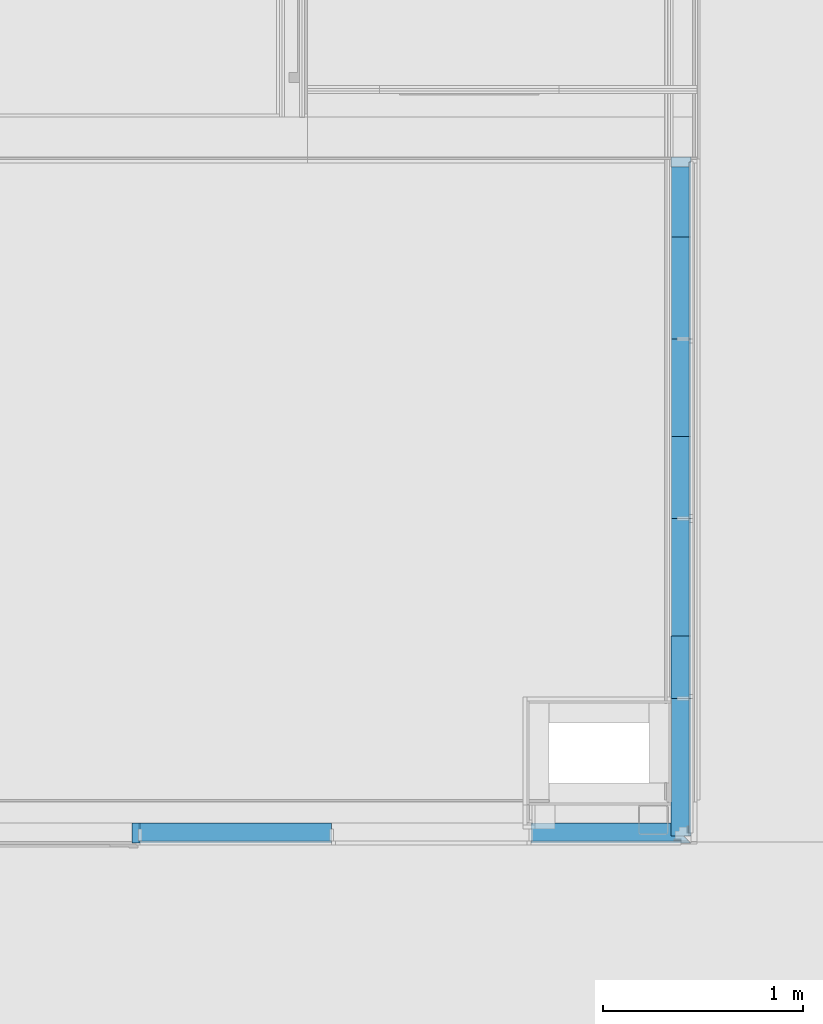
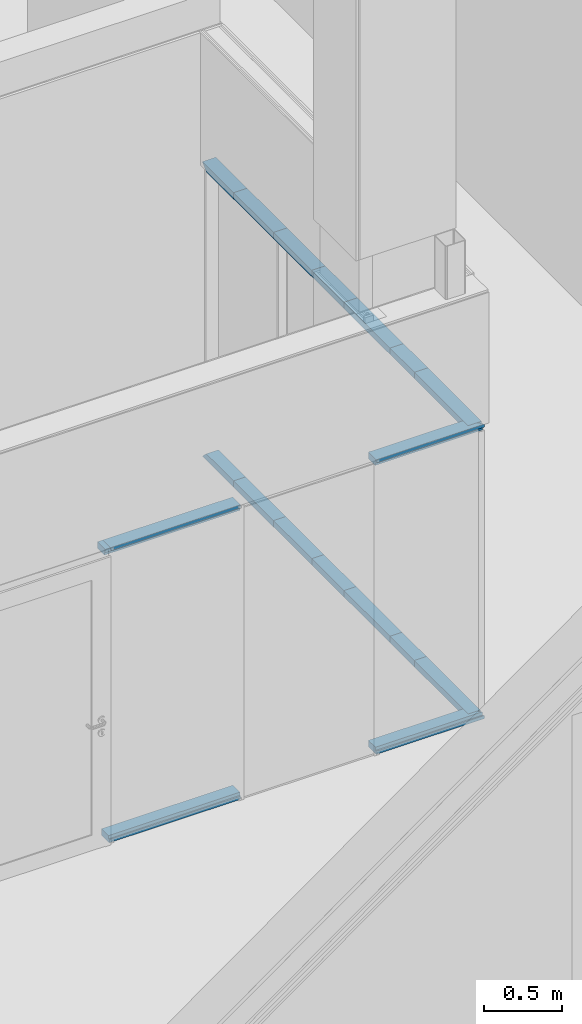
# One storey, part 15 of 139: 19 members, 1 element without a shape of its own.
"""IFC2X3 building model written with IfcOpenShell, lengths in millimetres."""

from ifc_helpers import new_model, entity, si_unit, converted_unit, derived_unit, money_unit, direction, frame, origin_with_axes, place, context, subcontext, project, spatial, faceted_brep, source, transform, mapped, material, type_object, element, aggregate, save


model = new_model("IFC2X3")

# Units and contexts
model_context = context("Model", 3, precision=0.01, world=origin_with_axes(), true_north=direction((0.0, 1.0)))
body_context = subcontext(model_context, "Body", "Model", "MODEL_VIEW")
ifc_project = project(units=[si_unit("LENGTHUNIT", "METRE", prefix="MILLI"), si_unit("AREAUNIT", "SQUARE_METRE"), si_unit("VOLUMEUNIT", "CUBIC_METRE"), converted_unit("PLANEANGLEUNIT", "DEGREE", entity("IfcPlaneAngleMeasure", 0.0174532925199), si_unit("PLANEANGLEUNIT", "RADIAN"), dimensions=[0, 0, 0, 0, 0, 0, 0]), money_unit("EUR"), converted_unit("TIMEUNIT", "Year", entity("IfcTimeMeasure", 31556926.0), si_unit("TIMEUNIT", "SECOND"), dimensions=[0, 0, 1, 0, 0, 0, 0]), si_unit("MASSUNIT", "GRAM", prefix="KILO"), si_unit("THERMODYNAMICTEMPERATUREUNIT", "DEGREE_CELSIUS"), si_unit("LUMINOUSINTENSITYUNIT", "LUMEN"), si_unit("ENERGYUNIT", "JOULE", prefix="MEGA"), derived_unit("THERMALCONDUCTANCEUNIT", [(si_unit("POWERUNIT", "WATT"), 1), (si_unit("LENGTHUNIT", "METRE"), -1), (si_unit("THERMODYNAMICTEMPERATUREUNIT", "KELVIN"), -1)]), derived_unit("SPECIFICHEATCAPACITYUNIT", [(si_unit("ENERGYUNIT", "JOULE"), 1), (si_unit("MASSUNIT", "GRAM", prefix="KILO"), -1), (si_unit("THERMODYNAMICTEMPERATUREUNIT", "KELVIN"), -1)]), derived_unit("MASSDENSITYUNIT", [(si_unit("MASSUNIT", "GRAM", prefix="KILO"), 1), (si_unit("VOLUMEUNIT", "CUBIC_METRE"), -1)])], contexts=[model_context])

# Site, building, storey
site_placement = place(None, origin_with_axes())
site = spatial("IfcSite", under=ifc_project, at=site_placement, Name="Kolde pst 67a", CompositionType="ELEMENT")
building_placement = place(site_placement, origin_with_axes())
building = spatial("IfcBuilding", under=site, at=building_placement, Name="Riigigümnaasium", CompositionType="ELEMENT")
storey_placement = place(building_placement, frame((0.0, 0.0, 4600.0), z_axis=(0.0, 0.0, 1.0), x_axis=(1.0, 0.0, 0.0)))
storey = spatial("IfcBuildingStorey", under=building, at=storey_placement, Name="2. korrus", CompositionType="ELEMENT", Elevation=4600.0)

# Curtain wall, members
curtain_wall_type = type_object("IfcCurtainWallType", Name="Curtain Wall Type", PredefinedType="NOTDEFINED")
curtain_wall_placement = place(storey_placement, frame((71469.9681221, 10694.9619432, -0.000132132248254), z_axis=(0.0, 0.0, 1.0), x_axis=(1.0, 0.0, 0.0)))
curtain_wall = element("IfcCurtainWall", 1, at=curtain_wall_placement, inside=storey, type_object=curtain_wall_type, Name="KLAASSEIN")
ifc_material = material(Name="_GENEERILINE MATERJAL")
member_type = type_object("IfcMemberType", Name="Boundary Frame 50 x 100", PredefinedType="MEMBER")
shared_shape_1 = source(origin_with_axes(), body_context, "Body", "Brep", [
    faceted_brep([(50.0, -10.0, -10.0), (50.0, -10.0, 960.062333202), (50.0, -100.0, 960.062333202), (50.0, -100.0, -10.0), (25.0, -10.0, 960.062333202), (25.0, -10.0, -10.0), (25.0, 0.0, 960.062333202), (0.0, 0.0, 960.062333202), (0.0, -100.0, 960.062333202), (0.0, -100.0, -10.0), (0.0, 0.0, -10.0), (25.0, 0.0, -10.0)], [[[0, 1, 2, 3]], [[4, 1, 0, 5]], [[4, 6, 7, 8, 2, 1]], [[3, 2, 8, 9]], [[5, 0, 3, 9, 10, 11]], [[11, 6, 4, 5]], [[6, 11, 10, 7]], [[9, 8, 7, 10]]]),
])
member_1_placement = place(curtain_wall_placement, frame((-480.031166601, -8.05597366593e-07, 2.48529836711e-05), z_axis=(1.0, 1.67821887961e-09, 0.0), x_axis=(0.0, 0.0, 1.0)))
member_1 = element("IfcMember", 2, at=member_1_placement, type_object=member_type, material=ifc_material, Name="RF RAAM SERV-179", ObjectType="MEMBER", context=body_context, shape_type="MappedRepresentation", body=[
    mapped(shared_shape_1, transform((0.0, 0.0, 0.0))),
])
shared_shape_2 = source(origin_with_axes(), body_context, "Body", "Brep", [
    faceted_brep([(-50.0, -10.0, 0.0), (-50.0, -100.0, 0.0), (-50.0, -100.0, 960.062333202), (-50.0, -10.0, 960.062333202), (-25.0, -10.0, 0.0), (-25.0, 0.0, 0.0), (0.0, 0.0, 0.0), (0.0, -100.0, 0.0), (0.0, -100.0, 960.062333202), (-25.0, -10.0, 960.062333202), (0.0, 0.0, 960.062333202), (-25.0, 0.0, 960.062333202)], [[[0, 1, 2, 3]], [[4, 5, 6, 7, 1, 0]], [[1, 7, 8, 2]], [[9, 3, 2, 8, 10, 11]], [[9, 4, 0, 3]], [[5, 4, 9, 11]], [[11, 10, 6, 5]], [[7, 6, 10, 8]]]),
])
member_2_placement = place(curtain_wall_placement, frame((-480.031166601, -8.05597366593e-07, 2300.00018238), z_axis=(1.0, 1.67821887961e-09, 0.0), x_axis=(0.0, 0.0, 1.0)))
member_2 = element("IfcMember", 3, at=member_2_placement, type_object=member_type, material=ifc_material, Name="RF RAAM SERV-185", ObjectType="MEMBER", context=body_context, shape_type="MappedRepresentation", body=[
    mapped(shared_shape_2, transform((0.0, 0.0, 0.0))),
])
shared_shape_3 = source(origin_with_axes(), body_context, "Body", "Brep", [
    faceted_brep([(50.0, -10.0, 0.0), (50.0, -10.0, 311.656305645), (50.0, -100.0, 311.656305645), (50.0, -100.0, 0.0), (25.0, -10.0, 311.656305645), (25.0, -10.0, 0.0), (25.0, 0.0, 311.656305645), (0.0, 0.0, 311.656305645), (0.0, -100.0, 311.656305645), (0.0, -100.0, 0.0), (0.0, 0.0, 0.0), (25.0, 0.0, 0.0)], [[[0, 1, 2, 3]], [[4, 1, 0, 5]], [[4, 6, 7, 8, 2, 1]], [[3, 2, 8, 9]], [[5, 0, 3, 9, 10, 11]], [[11, 6, 4, 5]], [[6, 11, 10, 7]], [[9, 8, 7, 10]]]),
])
member_3_placement = place(curtain_wall_placement, frame((2279.75189028, 723.343698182, 0.0), z_axis=(0.0, 1.0, 0.0), x_axis=(0.0, 0.0, 1.0)))
member_3 = element("IfcMember", 4, at=member_3_placement, type_object=member_type, material=ifc_material, Name="RF RAAM SERV-189", ObjectType="MEMBER", context=body_context, shape_type="MappedRepresentation", body=[
    mapped(shared_shape_3, transform((0.0, 0.0, 0.0))),
])
shared_shape_4 = source(origin_with_axes(), body_context, "Body", "Brep", [
    faceted_brep([(50.0, -10.0, 0.0), (50.0, -10.0, 411.144535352), (50.0, -100.0, 411.144535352), (50.0, -100.0, 0.0), (25.0, -10.0, 411.144535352), (25.0, -10.0, 0.0), (25.0, 0.0, 411.144535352), (0.0, 0.0, 411.144535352), (0.0, -100.0, 411.144535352), (0.0, -100.0, 0.0), (0.0, 0.0, 0.0), (25.0, 0.0, 0.0)], [[[0, 1, 2, 3]], [[4, 1, 0, 5]], [[4, 6, 7, 8, 2, 1]], [[3, 2, 8, 9]], [[5, 0, 3, 9, 10, 11]], [[11, 6, 4, 5]], [[6, 11, 10, 7]], [[9, 8, 7, 10]]]),
])
member_4_placement = place(curtain_wall_placement, frame((2279.75189028, 1623.85546847, 0.0), z_axis=(0.0, 1.0, 0.0), x_axis=(0.0, 0.0, 1.0)))
member_4 = element("IfcMember", 5, at=member_4_placement, type_object=member_type, material=ifc_material, Name="RF RAAM SERV-190", ObjectType="MEMBER", context=body_context, shape_type="MappedRepresentation", body=[
    mapped(shared_shape_4, transform((0.0, 0.0, 0.0))),
])
shared_shape_5 = source(origin_with_axes(), body_context, "Body", "Brep", [
    faceted_brep([(-50.0, -10.0, 0.0), (-50.0, -100.0, 0.0), (-50.0, -100.0, 311.656305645), (-50.0, -10.0, 311.656305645), (-25.0, -10.0, 0.0), (-25.0, 0.0, 0.0), (0.0, 0.0, 0.0), (0.0, -100.0, 0.0), (0.0, -100.0, 311.656305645), (-25.0, -10.0, 311.656305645), (0.0, 0.0, 311.656305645), (-25.0, 0.0, 311.656305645)], [[[0, 1, 2, 3]], [[4, 5, 6, 7, 1, 0]], [[1, 7, 8, 2]], [[9, 3, 2, 8, 10, 11]], [[9, 4, 0, 3]], [[5, 4, 9, 11]], [[11, 10, 6, 5]], [[7, 6, 10, 8]]]),
])
member_5_placement = place(curtain_wall_placement, frame((2279.75189028, 723.343698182, 2300.00014524), z_axis=(0.0, 1.0, 0.0), x_axis=(0.0, 0.0, 1.0)))
member_5 = element("IfcMember", 6, at=member_5_placement, type_object=member_type, material=ifc_material, Name="RF RAAM SERV-197", ObjectType="MEMBER", context=body_context, shape_type="MappedRepresentation", body=[
    mapped(shared_shape_5, transform((0.0, 0.0, 0.0))),
])
shared_shape_6 = source(origin_with_axes(), body_context, "Body", "Brep", [
    faceted_brep([(-50.0, -10.0, 0.0), (-50.0, -100.0, 0.0), (-50.0, -100.0, 411.144535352), (-50.0, -10.0, 411.144535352), (-25.0, -10.0, 0.0), (-25.0, 0.0, 0.0), (0.0, 0.0, 0.0), (0.0, -100.0, 0.0), (0.0, -100.0, 411.144535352), (-25.0, -10.0, 411.144535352), (0.0, 0.0, 411.144535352), (-25.0, 0.0, 411.144535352)], [[[0, 1, 2, 3]], [[4, 5, 6, 7, 1, 0]], [[1, 7, 8, 2]], [[9, 3, 2, 8, 10, 11]], [[9, 4, 0, 3]], [[5, 4, 9, 11]], [[11, 10, 6, 5]], [[7, 6, 10, 8]]]),
])
member_6_placement = place(curtain_wall_placement, frame((2279.75189028, 1623.85546847, 2300.00014524), z_axis=(0.0, 1.0, 0.0), x_axis=(0.0, 0.0, 1.0)))
member_6 = element("IfcMember", 7, at=member_6_placement, type_object=member_type, material=ifc_material, Name="RF RAAM SERV-196", ObjectType="MEMBER", context=body_context, shape_type="MappedRepresentation", body=[
    mapped(shared_shape_6, transform((0.0, 0.0, 0.0))),
])
shared_shape_7 = source(origin_with_axes(), body_context, "Body", "Brep", [
    faceted_brep([(-50.0, -10.0, 0.0), (-50.0, -100.0, 0.0), (-50.0, -100.0, 699.720723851), (-50.0, -10.0, 789.7207237), (-25.0, -10.0, 0.0), (-25.0, 0.0, 0.0), (0.0, 0.0, 0.0), (0.0, -100.0, 0.0), (0.0, -100.0, 699.720723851), (-25.0, -10.0, 789.7207237), (0.0, 0.0, 799.720723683), (-25.0, 0.0, 799.720723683)], [[[0, 1, 2, 3]], [[4, 5, 6, 7, 1, 0]], [[1, 7, 8, 2]], [[9, 3, 2, 8, 10, 11]], [[9, 4, 0, 3]], [[5, 4, 9, 11]], [[11, 10, 6, 5]], [[7, 6, 10, 8]]]),
])
member_7_placement = place(curtain_wall_placement, frame((1480.0311666, 2.48381759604e-06, 2300.00018238), z_axis=(1.0, 1.67821944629e-09, 0.0), x_axis=(0.0, 0.0, 1.0)))
member_7 = element("IfcMember", 8, at=member_7_placement, type_object=member_type, material=ifc_material, Name="RF RAAM SERV-183", ObjectType="MEMBER", context=body_context, shape_type="MappedRepresentation", body=[
    mapped(shared_shape_7, transform((0.0, 0.0, 0.0))),
])
shared_shape_8 = source(origin_with_axes(), body_context, "Body", "Brep", [
    faceted_brep([(50.0, -10.0, 0.0), (50.0, -10.0, 789.7207237), (50.0, -100.0, 699.720723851), (50.0, -100.0, 0.0), (25.0, -10.0, 789.7207237), (25.0, -10.0, 0.0), (25.0, 0.0, 799.720723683), (0.0, 0.0, 799.720723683), (0.0, -100.0, 699.720723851), (0.0, -100.0, 0.0), (0.0, 0.0, 0.0), (25.0, 0.0, 0.0)], [[[0, 1, 2, 3]], [[4, 1, 0, 5]], [[4, 6, 7, 8, 2, 1]], [[3, 2, 8, 9]], [[5, 0, 3, 9, 10, 11]], [[11, 6, 4, 5]], [[6, 11, 10, 7]], [[9, 8, 7, 10]]]),
])
member_8_placement = place(curtain_wall_placement, frame((1480.0311666, 2.48381759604e-06, 2.48529836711e-05), z_axis=(1.0, 1.67821944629e-09, 0.0), x_axis=(0.0, 0.0, 1.0)))
member_8 = element("IfcMember", 9, at=member_8_placement, type_object=member_type, material=ifc_material, Name="RF RAAM SERV-181", ObjectType="MEMBER", context=body_context, shape_type="MappedRepresentation", body=[
    mapped(shared_shape_8, transform((0.0, 0.0, 0.0))),
])
shared_shape_9 = source(origin_with_axes(), body_context, "Body", "Brep", [
    faceted_brep([(-50.0, -10.0, 0.0), (-50.0, -100.0, 0.0), (-50.0, -100.0, 511.1445251), (-50.0, -10.0, 511.1445251), (-25.0, -10.0, 0.0), (-25.0, 0.0, 0.0), (0.0, 0.0, 0.0), (0.0, -100.0, 0.0), (0.0, -100.0, 511.1445251), (-25.0, -10.0, 511.1445251), (0.0, 0.0, 511.1445251), (-25.0, 0.0, 511.1445251)], [[[0, 1, 2, 3]], [[4, 5, 6, 7, 1, 0]], [[1, 7, 8, 2]], [[9, 3, 2, 8, 10, 11]], [[9, 4, 0, 3]], [[5, 4, 9, 11]], [[11, 10, 6, 5]], [[7, 6, 10, 8]]]),
])
member_9_placement = place(curtain_wall_placement, frame((2279.75189028, 2523.85547873, 2300.00014524), z_axis=(0.0, 1.0, 0.0), x_axis=(0.0, 0.0, 1.0)))
member_9 = element("IfcMember", 10, at=member_9_placement, type_object=member_type, material=ifc_material, Name="RF RAAM SERV-195", ObjectType="MEMBER", context=body_context, shape_type="MappedRepresentation", body=[
    mapped(shared_shape_9, transform((0.0, 0.0, 0.0))),
])
shared_shape_10 = source(origin_with_axes(), body_context, "Body", "Brep", [
    faceted_brep([(50.0, -10.0, 0.0), (50.0, -10.0, 511.1445251), (50.0, -100.0, 511.1445251), (50.0, -100.0, 0.0), (25.0, -10.0, 511.1445251), (25.0, -10.0, 0.0), (25.0, 0.0, 511.1445251), (0.0, 0.0, 511.1445251), (0.0, -100.0, 511.1445251), (0.0, -100.0, 0.0), (0.0, 0.0, 0.0), (25.0, 0.0, 0.0)], [[[0, 1, 2, 3]], [[4, 1, 0, 5]], [[4, 6, 7, 8, 2, 1]], [[3, 2, 8, 9]], [[5, 0, 3, 9, 10, 11]], [[11, 6, 4, 5]], [[6, 11, 10, 7]], [[9, 8, 7, 10]]]),
])
member_10_placement = place(curtain_wall_placement, frame((2279.75189028, 2523.85547873, 0.0), z_axis=(0.0, 1.0, 0.0), x_axis=(0.0, 0.0, 1.0)))
member_10 = element("IfcMember", 11, at=member_10_placement, type_object=member_type, material=ifc_material, Name="RF RAAM SERV-191", ObjectType="MEMBER", context=body_context, shape_type="MappedRepresentation", body=[
    mapped(shared_shape_10, transform((0.0, 0.0, 0.0))),
])
shared_shape_11 = source(origin_with_axes(), body_context, "Body", "Brep", [
    faceted_brep([(-50.0, -10.0, 0.0), (-50.0, -100.0, 0.0), (-50.0, -100.0, 349.403410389), (-50.0, -10.0, 349.403410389), (-25.0, -10.0, 0.0), (-25.0, 0.0, 0.0), (0.0, 0.0, 0.0), (0.0, -100.0, 0.0), (0.0, -100.0, 399.403410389), (-25.0, -10.0, 374.403410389), (0.0, 0.0, 399.403410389), (-25.0, 0.0, 374.403410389)], [[[0, 1, 2, 3]], [[4, 5, 6, 7, 1, 0]], [[1, 7, 8, 2]], [[9, 3, 2, 8, 10, 11]], [[9, 4, 0, 3]], [[5, 4, 9, 11]], [[11, 10, 6, 5]], [[7, 6, 10, 8]]]),
])
member_11_placement = place(curtain_wall_placement, frame((2279.75189028, 3035.00000383, 2300.00014524), z_axis=(0.0, 1.0, 0.0), x_axis=(0.0, 0.0, 1.0)))
member_11 = element("IfcMember", 12, at=member_11_placement, type_object=member_type, material=ifc_material, Name="RF RAAM SERV-194", ObjectType="MEMBER", context=body_context, shape_type="MappedRepresentation", body=[
    mapped(shared_shape_11, transform((0.0, 0.0, 0.0))),
])
shared_shape_12 = source(origin_with_axes(), body_context, "Body", "Brep", [
    faceted_brep([(50.0, -10.0, 0.0), (50.0, -10.0, 349.403410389), (50.0, -100.0, 349.403410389), (50.0, -100.0, 0.0), (25.0, -10.0, 374.403410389), (25.0, -10.0, 0.0), (25.0, 0.0, 374.403410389), (0.0, 0.0, 399.403410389), (0.0, -100.0, 399.403410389), (0.0, -100.0, 0.0), (0.0, 0.0, 0.0), (25.0, 0.0, 0.0)], [[[0, 1, 2, 3]], [[4, 1, 0, 5]], [[4, 6, 7, 8, 2, 1]], [[3, 2, 8, 9]], [[5, 0, 3, 9, 10, 11]], [[11, 6, 4, 5]], [[6, 11, 10, 7]], [[9, 8, 7, 10]]]),
])
member_12_placement = place(curtain_wall_placement, frame((2279.75189028, 3035.00000383, 0.0), z_axis=(0.0, 1.0, 0.0), x_axis=(0.0, 0.0, 1.0)))
member_12 = element("IfcMember", 13, at=member_12_placement, type_object=member_type, material=ifc_material, Name="RF RAAM SERV-192", ObjectType="MEMBER", context=body_context, shape_type="MappedRepresentation", body=[
    mapped(shared_shape_12, transform((0.0, 0.0, 0.0))),
])
shared_shape_13 = source(origin_with_axes(), body_context, "Body", "Brep", [
    faceted_brep([(50.0, -10.0, 0.0), (50.0, -10.0, 688.343694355), (50.0, -100.0, 688.343694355), (50.0, -100.0, 0.0), (25.0, -10.0, 688.343694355), (25.0, -10.0, 0.0), (25.0, 0.0, 688.343694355), (0.0, 0.0, 688.343694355), (0.0, -100.0, 688.343694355), (0.0, -100.0, 0.0), (0.0, 0.0, 0.0), (25.0, 0.0, 0.0)], [[[0, 1, 2, 3]], [[4, 1, 0, 5]], [[4, 6, 7, 8, 2, 1]], [[3, 2, 8, 9]], [[5, 0, 3, 9, 10, 11]], [[11, 6, 4, 5]], [[6, 11, 10, 7]], [[9, 8, 7, 10]]]),
])
member_13_placement = place(curtain_wall_placement, frame((2279.75189028, 35.0000038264, 0.0), z_axis=(0.0, 1.0, 0.0), x_axis=(0.0, 0.0, 1.0)))
member_13 = element("IfcMember", 14, at=member_13_placement, type_object=member_type, material=ifc_material, Name="RF RAAM SERV-199", ObjectType="MEMBER", context=body_context, shape_type="MappedRepresentation", body=[
    mapped(shared_shape_13, transform((0.0, 0.0, 0.0))),
])
shared_shape_14 = source(origin_with_axes(), body_context, "Body", "Brep", [
    faceted_brep([(-50.0, -10.0, 0.0), (-50.0, -100.0, 0.0), (-50.0, -100.0, 688.343694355), (-50.0, -10.0, 688.343694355), (-25.0, -10.0, 0.0), (-25.0, 0.0, 0.0), (0.0, 0.0, 0.0), (0.0, -100.0, 0.0), (0.0, -100.0, 688.343694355), (-25.0, -10.0, 688.343694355), (0.0, 0.0, 688.343694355), (-25.0, 0.0, 688.343694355)], [[[0, 1, 2, 3]], [[4, 5, 6, 7, 1, 0]], [[1, 7, 8, 2]], [[9, 3, 2, 8, 10, 11]], [[9, 4, 0, 3]], [[5, 4, 9, 11]], [[11, 10, 6, 5]], [[7, 6, 10, 8]]]),
])
member_14_placement = place(curtain_wall_placement, frame((2279.75189028, 35.0000038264, 2300.00014524), z_axis=(0.0, 1.0, 0.0), x_axis=(0.0, 0.0, 1.0)))
member_14 = element("IfcMember", 15, at=member_14_placement, type_object=member_type, material=ifc_material, Name="RF RAAM SERV-200", ObjectType="MEMBER", context=body_context, shape_type="MappedRepresentation", body=[
    mapped(shared_shape_14, transform((0.0, 0.0, 0.0))),
])
shared_shape_15 = source(origin_with_axes(), body_context, "Body", "Brep", [
    faceted_brep([(50.0, -10.0, 0.0), (50.0, -10.0, 588.855464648), (50.0, -100.0, 588.855464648), (50.0, -100.0, 0.0), (25.0, -10.0, 588.855464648), (25.0, -10.0, 0.0), (25.0, 0.0, 588.855464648), (0.0, 0.0, 588.855464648), (0.0, -100.0, 588.855464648), (0.0, -100.0, 0.0), (0.0, 0.0, 0.0), (25.0, 0.0, 0.0)], [[[0, 1, 2, 3]], [[4, 1, 0, 5]], [[4, 6, 7, 8, 2, 1]], [[3, 2, 8, 9]], [[5, 0, 3, 9, 10, 11]], [[11, 6, 4, 5]], [[6, 11, 10, 7]], [[9, 8, 7, 10]]]),
])
member_15_placement = place(curtain_wall_placement, frame((2279.75189028, 1035.00000383, 0.0), z_axis=(0.0, 1.0, 0.0), x_axis=(0.0, 0.0, 1.0)))
member_15 = element("IfcMember", 16, at=member_15_placement, type_object=member_type, material=ifc_material, Name="RF RAAM SERV-207", ObjectType="MEMBER", context=body_context, shape_type="MappedRepresentation", body=[
    mapped(shared_shape_15, transform((0.0, 0.0, 0.0))),
])
shared_shape_16 = source(origin_with_axes(), body_context, "Body", "Brep", [
    faceted_brep([(-50.0, -10.0, 0.0), (-50.0, -100.0, 0.0), (-50.0, -100.0, 588.855464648), (-50.0, -10.0, 588.855464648), (-25.0, -10.0, 0.0), (-25.0, 0.0, 0.0), (0.0, 0.0, 0.0), (0.0, -100.0, 0.0), (0.0, -100.0, 588.855464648), (-25.0, -10.0, 588.855464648), (0.0, 0.0, 588.855464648), (-25.0, 0.0, 588.855464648)], [[[0, 1, 2, 3]], [[4, 5, 6, 7, 1, 0]], [[1, 7, 8, 2]], [[9, 3, 2, 8, 10, 11]], [[9, 4, 0, 3]], [[5, 4, 9, 11]], [[11, 10, 6, 5]], [[7, 6, 10, 8]]]),
])
member_16_placement = place(curtain_wall_placement, frame((2279.75189028, 1035.00000383, 2300.00014524), z_axis=(0.0, 1.0, 0.0), x_axis=(0.0, 0.0, 1.0)))
member_16 = element("IfcMember", 17, at=member_16_placement, type_object=member_type, material=ifc_material, Name="RF RAAM SERV-208", ObjectType="MEMBER", context=body_context, shape_type="MappedRepresentation", body=[
    mapped(shared_shape_16, transform((0.0, 0.0, 0.0))),
])
shared_shape_17 = source(origin_with_axes(), body_context, "Body", "Brep", [
    faceted_brep([(50.0, -10.0, 0.0), (50.0, -10.0, 488.8554749), (50.0, -100.0, 488.8554749), (50.0, -100.0, 0.0), (25.0, -10.0, 488.8554749), (25.0, -10.0, 0.0), (25.0, 0.0, 488.8554749), (0.0, 0.0, 488.8554749), (0.0, -100.0, 488.8554749), (0.0, -100.0, 0.0), (0.0, 0.0, 0.0), (25.0, 0.0, 0.0)], [[[0, 1, 2, 3]], [[4, 1, 0, 5]], [[4, 6, 7, 8, 2, 1]], [[3, 2, 8, 9]], [[5, 0, 3, 9, 10, 11]], [[11, 6, 4, 5]], [[6, 11, 10, 7]], [[9, 8, 7, 10]]]),
])
member_17_placement = place(curtain_wall_placement, frame((2279.75189028, 2035.00000383, 0.0), z_axis=(0.0, 1.0, 0.0), x_axis=(0.0, 0.0, 1.0)))
member_17 = element("IfcMember", 18, at=member_17_placement, type_object=member_type, material=ifc_material, Name="RF RAAM SERV-209", ObjectType="MEMBER", context=body_context, shape_type="MappedRepresentation", body=[
    mapped(shared_shape_17, transform((0.0, 0.0, 0.0))),
])
shared_shape_18 = source(origin_with_axes(), body_context, "Body", "Brep", [
    faceted_brep([(-50.0, -10.0, 0.0), (-50.0, -100.0, 0.0), (-50.0, -100.0, 488.8554749), (-50.0, -10.0, 488.8554749), (-25.0, -10.0, 0.0), (-25.0, 0.0, 0.0), (0.0, 0.0, 0.0), (0.0, -100.0, 0.0), (0.0, -100.0, 488.8554749), (-25.0, -10.0, 488.8554749), (0.0, 0.0, 488.8554749), (-25.0, 0.0, 488.8554749)], [[[0, 1, 2, 3]], [[4, 5, 6, 7, 1, 0]], [[1, 7, 8, 2]], [[9, 3, 2, 8, 10, 11]], [[9, 4, 0, 3]], [[5, 4, 9, 11]], [[11, 10, 6, 5]], [[7, 6, 10, 8]]]),
])
member_18_placement = place(curtain_wall_placement, frame((2279.75189028, 2035.00000383, 2300.00014524), z_axis=(0.0, 1.0, 0.0), x_axis=(0.0, 0.0, 1.0)))
member_18 = element("IfcMember", 19, at=member_18_placement, type_object=member_type, material=ifc_material, Name="RF RAAM SERV-210", ObjectType="MEMBER", context=body_context, shape_type="MappedRepresentation", body=[
    mapped(shared_shape_18, transform((0.0, 0.0, 0.0))),
])
shared_shape_19 = source(origin_with_axes(), body_context, "Body", "Brep", [
    faceted_brep([(-50.0, -10.0, 0.0), (-50.0, -100.0, 0.0), (-50.0, -100.0, 39.9376667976), (-50.0, -10.0, 39.9376667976), (-25.0, -10.0, 0.0), (-25.0, 0.0, 0.0), (0.0, 0.0, 0.0), (0.0, -100.0, 0.0), (0.0, -100.0, 39.9376667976), (-25.0, -10.0, 39.9376667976), (0.0, 0.0, 39.9376667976), (-25.0, 0.0, 39.9376667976)], [[[0, 1, 2, 3]], [[4, 5, 6, 7, 1, 0]], [[1, 7, 8, 2]], [[9, 3, 2, 8, 10, 11]], [[9, 4, 0, 3]], [[5, 4, 9, 11]], [[11, 10, 6, 5]], [[7, 6, 10, 8]]]),
])
member_19_placement = place(curtain_wall_placement, frame((-519.968833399, -8.72621086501e-07, 2300.00018238), z_axis=(1.0, 1.67820819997e-09, 0.0), x_axis=(0.0, 0.0, 1.0)))
member_19 = element("IfcMember", 20, at=member_19_placement, type_object=member_type, material=ifc_material, Name="RF RAAM SERV-212", ObjectType="MEMBER", context=body_context, shape_type="MappedRepresentation", body=[
    mapped(shared_shape_19, transform((0.0, 0.0, 0.0))),
])
aggregate(curtain_wall, [member_1, member_2, member_3, member_4, member_5, member_6, member_7, member_8, member_9, member_10, member_11, member_12, member_13, member_14, member_15, member_16, member_17, member_18, member_19])

save(model, "model.ifc")
